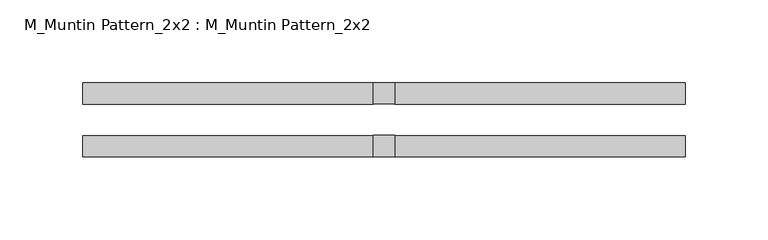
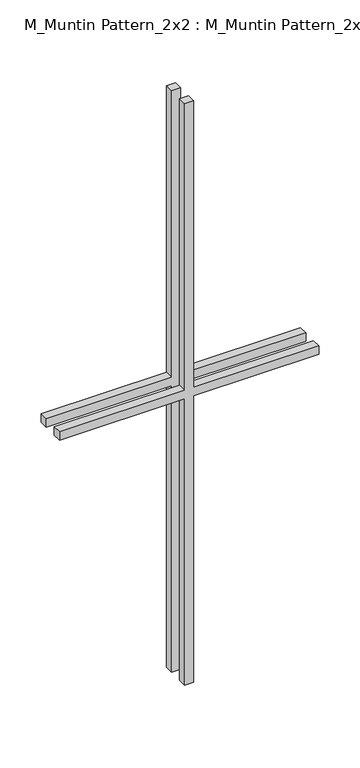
"""IFC4 building model written with IfcOpenShell, lengths in millimetres: proxy geometry, M_Muntin Pattern_2x2 : M_Muntin Pattern_2x2."""

from ifc_helpers import new_model, si_unit, frame, origin, place, context, project, spatial, polyline, outline, extrude, source, transform, mapped, element, save


def m_muntin_pattern_2x2_m_muntin_pattern_2x2_c1980b4f(model_context):
    return source(origin(), model_context, "Body", "SweptSolid", [
        extrude(outline(polyline([(436.5, -6.35), (436.5, -181.7375), (423.8, -181.7375), (423.8, -6.35), (0.0, -6.35), (0.0, 6.35), (423.8, 6.35), (423.8, 181.7375), (436.5, 181.7375), (436.5, 6.35), (860.3, 6.35), (860.3, -6.35), (436.5, -6.35)])), frame((0.0, 9.525, 0.0), z_axis=(0.0, 1.0, 0.0), x_axis=(0.0, 0.0, 1.0)), (0.0, 0.0, 1.0), 12.7),
        extrude(outline(polyline([(436.5, -6.35), (436.5, -181.7375), (423.8, -181.7375), (423.8, -6.35), (0.0, -6.35), (0.0, 6.35), (423.8, 6.35), (423.8, 181.7375), (436.5, 181.7375), (436.5, 6.35), (860.3, 6.35), (860.3, -6.35), (436.5, -6.35)])), frame((0.0, -22.225, 0.0), z_axis=(0.0, 1.0, 0.0), x_axis=(0.0, 0.0, 1.0)), (0.0, 0.0, 1.0), 12.7),
    ])


if __name__ == "__main__":
    model = new_model("IFC4")
    model_context = context("Model", 3, world=origin())
    ifc_project = project(units=[si_unit("LENGTHUNIT", "METRE", prefix="MILLI")], contexts=[model_context])
    site = spatial("IfcSite", under=ifc_project)
    building = spatial("IfcBuilding", under=site)
    placement = place(None, origin())
    m_muntin_pattern_2x2_m_muntin_pattern_2x2_shape = m_muntin_pattern_2x2_m_muntin_pattern_2x2_c1980b4f(model_context)
    element("IfcBuildingElementProxy", 1, Name="M_Muntin Pattern_2x2 : M_Muntin Pattern_2x2", ObjectType="M_Muntin Pattern_2x2 : M_Muntin Pattern_2x2", at=placement, inside=building, context=model_context, shape_type="MappedRepresentation", body=[
        mapped(m_muntin_pattern_2x2_m_muntin_pattern_2x2_shape, transform((0.0, 0.0, 0.0), x_axis=(1.0, 0.0, 0.0), y_axis=(0.0, 1.0, 0.0), z_axis=(0.0, 0.0, 1.0))),
    ])
    save(model, "model.ifc")
